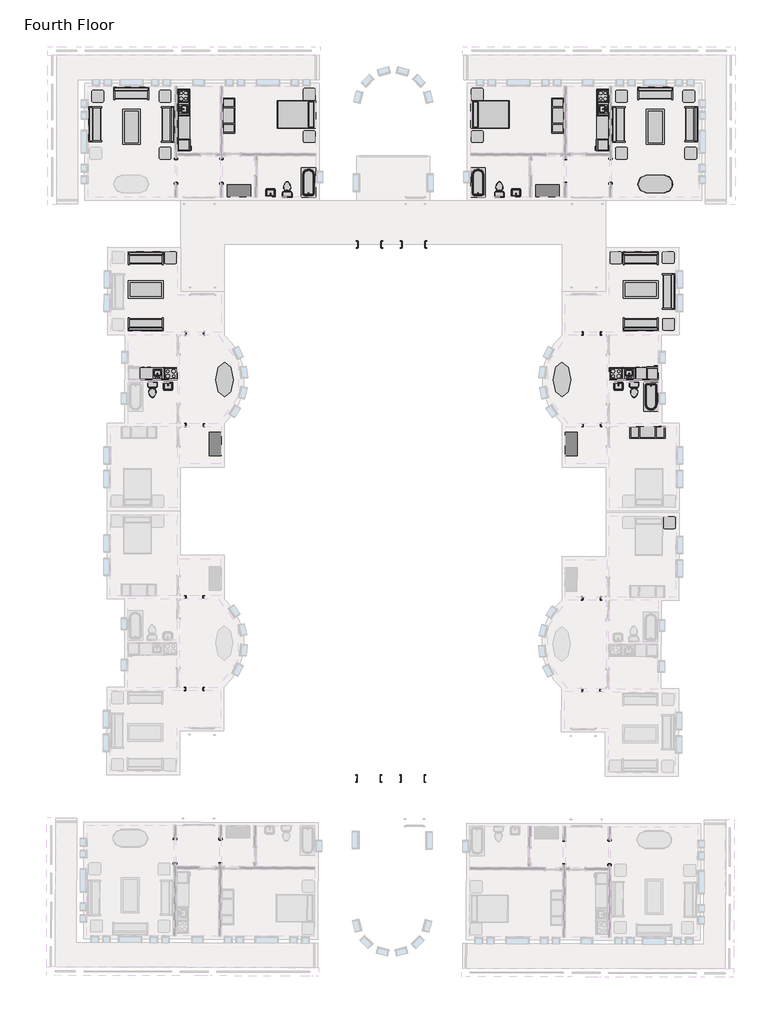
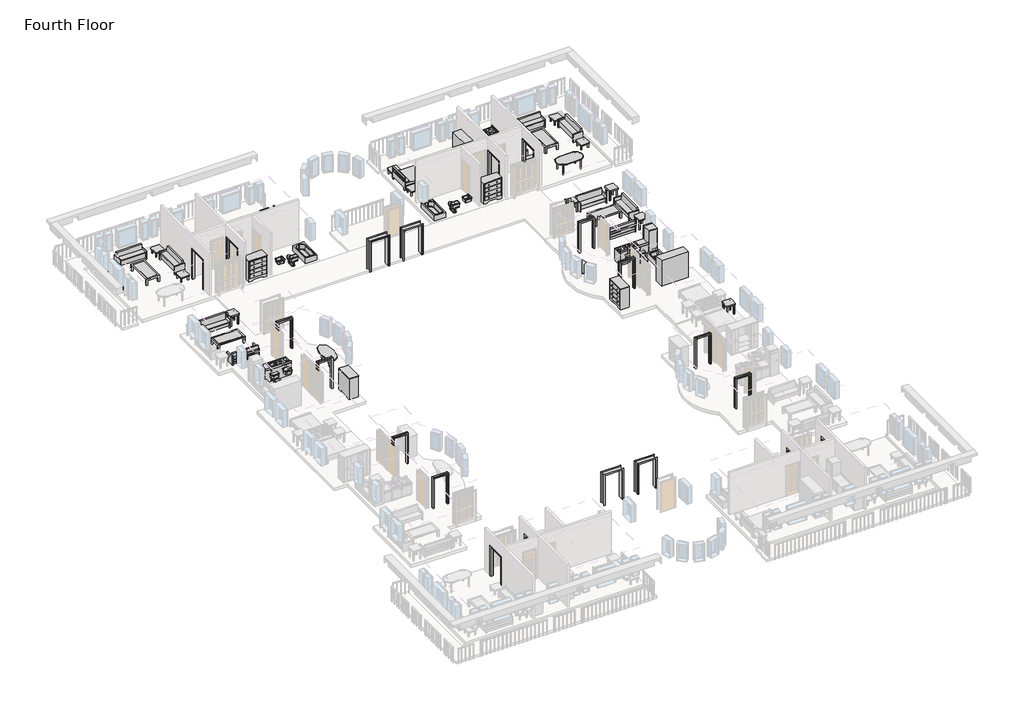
# One storey, part 8 of 8: 47 furniture elements, 35 proxies, 15 flow terminals.
"""IFC4 building model written with IfcOpenShell, lengths in millimetres."""

from ifc_helpers import new_model, si_unit, origin, place, context, project, spatial, transform, mapped, element, save
from components import m_cook_top_4_unit2_0615_x_500mm_249f3515, m_cook_top_4_unit2_0615_x_500mm_c91639ce, m_dishwasher_610_x_610_x_875mm_54ecfc4c, m_dishwasher_610_x_610_x_875mm_75336c20, m_kitchenette_medium_1372mm_e05c6bec, m_kitchenette_medium_1372mm_39f1532f, m_passage_opening_cased_0915_x_2134mm_b7ef4dee, m_passage_opening_cased_0915_x_2134mm_5e741ba8, m_passage_opening_cased_1220_x_2134mm_87a8d9c2, m_passage_opening_cased_1220_x_2134mm_f04423fa, m_passage_opening_cased_1220_x_2134mm_7296280d, m_passage_opening_cased_1220_x_2134mm_b92f2863, m_refrigerator_600_x_660mm_a466bf94, m_refrigerator_600_x_660mm_0a899b9c, m_sink_kitchen_island_450_x_450mm_f969cf2d, m_sink_kitchen_island_450_x_450mm_f6c2c534, m_sink_vanity_square_500_x_440mm_1e229b74, m_sink_vanity_square_500_x_440mm_f3cfe680, m_toilet_domestic_3d_m_toilet_domestic_3d_5cb52bd4, m_toilet_domestic_3d_m_toilet_domestic_3d_183bbd19, m_toilet_domestic_3d_m_toilet_domestic_3d_43425dfb, m_toilet_domestic_3d_m_toilet_domestic_3d_5530cc89, m_tub_rectangular_3d_m_tub_rectangular_3d_3a981ad5, m_tub_rectangular_3d_m_tub_rectangular_3d_c2020133, m_bed_shaker_1422_x_1981mm_double_096e7f55, m_bed_shaker_1422_x_1981mm_double_097b173b, m_counter_top_w_sink_hole_600mm_depth_1fb56bb9, m_counter_top_w_sink_hole_600mm_depth_08c4f679, m_counter_top_w_sink_hole_600mm_depth_60928b92, m_counter_top_w_sink_hole_600mm_depth_7e9aa94d, m_dresser_1220_x_1525_x_0610mm_18e1f140, m_dresser_1220_x_1525_x_0610mm_4e5de046, m_entertainment_center_1830_x_1830_x_0610mm_f77a9b93, m_entertainment_center_1830_x_1830_x_0610mm_4f6058a0, m_sofa_1830mm_58d08fc1, m_sofa_1830mm_3da2e71b, m_sofa1_1830mm_f9e8a66b, m_sofa1_1830mm_493d6964, m_table_coffee_0915_x_1830_x_0457mm_134cd960, m_table_coffee_0915_x_1830_x_0457mm_595c1ebd, m_table_dining_oval_0915_x_1830mm_a7cfbe21, m_table_ellipse_1800_x_900mm_fd46d5a5, m_table_ellipse_1800_x_900mm_f7269293, m_table_end_cb6ea12e, m_table_end_aa2764bc, m_table_end_0610_x_0160mm_e0e5b28f, m_table_end_0610_x_0160mm_ccef8dc9

model = new_model("IFC4")

# Units and contexts
model_context = context("Model", 3, world=origin())
ifc_project = project(units=[si_unit("LENGTHUNIT", "METRE", prefix="MILLI")], contexts=[model_context])

# Site, building, storey
site = spatial("IfcSite", under=ifc_project)
building = spatial("IfcBuilding", under=site)
storey = spatial("IfcBuildingStorey", under=building, Name="Fourth Floor", Elevation=9144.0)

# Proxies
placement = place(None, origin())
m_cook_top_4_unit2_0615_x_500mm_shape = m_cook_top_4_unit2_0615_x_500mm_249f3515(model_context)
element("IfcBuildingElementProxy", 1, Name="M_Cook Top-4 Unit2 : 0615 x 500mm", ObjectType="M_Cook Top-4 Unit2 : 0615 x 500mm", at=placement, inside=storey, context=model_context, shape_type="MappedRepresentation", body=[
    mapped(m_cook_top_4_unit2_0615_x_500mm_shape, transform((-8054.9916203, 1914.054661, 9144.0), x_axis=(0.0, -1.0, 0.0), y_axis=(1.0, 0.0, 0.0), z_axis=(0.0, 0.0, 1.0))),
])
element("IfcBuildingElementProxy", 2, Name="M_Cook Top-4 Unit2 : 0615 x 500mm", ObjectType="M_Cook Top-4 Unit2 : 0615 x 500mm", at=placement, inside=storey, context=model_context, shape_type="MappedRepresentation", body=[
    mapped(m_cook_top_4_unit2_0615_x_500mm_shape, transform((-30530.5448332, -12522.1734226, 9144.0), x_axis=(-0.9999989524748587, 0.0014474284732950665, 0.0), y_axis=(-0.0014474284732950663, -0.9999989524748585, 0.0), z_axis=(0.0, 0.0, 0.9999999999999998))),
])
m_cook_top_4_unit2_0615_x_500mm_2_shape = m_cook_top_4_unit2_0615_x_500mm_c91639ce(model_context)
element("IfcBuildingElementProxy", 3, Name="M_Cook Top-4 Unit2 : 0615 x 500mm", ObjectType="M_Cook Top-4 Unit2 : 0615 x 500mm", at=placement, inside=storey, context=model_context, shape_type="MappedRepresentation", body=[
    mapped(m_cook_top_4_unit2_0615_x_500mm_2_shape, transform((-7383.6384074, -12522.1734226, 9144.0), x_axis=(0.9999989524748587, 0.0014474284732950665, 0.0), y_axis=(-0.0014474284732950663, 0.9999989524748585, 0.0), z_axis=(0.0, 0.0, 0.9999999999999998))),
])
element("IfcBuildingElementProxy", 4, Name="M_Cook Top-4 Unit2 : 0615 x 500mm", ObjectType="M_Cook Top-4 Unit2 : 0615 x 500mm", at=placement, inside=storey, context=model_context, shape_type="MappedRepresentation", body=[
    mapped(m_cook_top_4_unit2_0615_x_500mm_2_shape, transform((-29859.1916203, 1914.054661, 9144.0), x_axis=(0.0, -1.0, 0.0), y_axis=(1.0, 0.0, 0.0), z_axis=(0.0, 0.0, 1.0))),
])
m_dishwasher_610_x_610_x_875mm_shape = m_dishwasher_610_x_610_x_875mm_54ecfc4c(model_context)
element("IfcBuildingElementProxy", 5, Name="M_Dishwasher : 610 x 610 x 875mm", ObjectType="M_Dishwasher : 610 x 610 x 875mm", at=placement, inside=storey, context=model_context, shape_type="MappedRepresentation", body=[
    mapped(m_dishwasher_610_x_610_x_875mm_shape, transform((-8321.6411851, 353.5721295, 9144.0), x_axis=(0.0, -1.0, 0.0), y_axis=(1.0, 0.0, 0.0), z_axis=(0.0, 0.0, 1.0))),
])
element("IfcBuildingElementProxy", 6, Name="M_Dishwasher : 610 x 610 x 875mm", ObjectType="M_Dishwasher : 610 x 610 x 875mm", at=placement, inside=storey, context=model_context, shape_type="MappedRepresentation", body=[
    mapped(m_dishwasher_610_x_610_x_875mm_shape, transform((-31445.6404496, -12254.1990417, 9144.0), x_axis=(-0.9999989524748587, 0.0014474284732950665, 0.0), y_axis=(-0.0014474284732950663, -0.9999989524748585, 0.0), z_axis=(0.0, 0.0, 0.9999999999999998))),
])
m_dishwasher_610_x_610_x_875mm_2_shape = m_dishwasher_610_x_610_x_875mm_75336c20(model_context)
element("IfcBuildingElementProxy", 7, Name="M_Dishwasher : 610 x 610 x 875mm", ObjectType="M_Dishwasher : 610 x 610 x 875mm", at=placement, inside=storey, context=model_context, shape_type="MappedRepresentation", body=[
    mapped(m_dishwasher_610_x_610_x_875mm_2_shape, transform((-6468.5427911, -12254.1990417, 9144.0), x_axis=(0.9999989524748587, 0.0014474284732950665, 0.0), y_axis=(-0.0014474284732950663, 0.9999989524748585, 0.0), z_axis=(0.0, 0.0, 0.9999999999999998))),
])
element("IfcBuildingElementProxy", 8, Name="M_Dishwasher : 610 x 610 x 875mm", ObjectType="M_Dishwasher : 610 x 610 x 875mm", at=placement, inside=storey, context=model_context, shape_type="MappedRepresentation", body=[
    mapped(m_dishwasher_610_x_610_x_875mm_2_shape, transform((-29592.5420555, 353.5721295, 9144.0), x_axis=(0.0, -1.0, 0.0), y_axis=(1.0, 0.0, 0.0), z_axis=(0.0, 0.0, 1.0))),
])
m_kitchenette_medium_1372mm_shape = m_kitchenette_medium_1372mm_e05c6bec(model_context)
element("IfcBuildingElementProxy", 9, Name="M_Kitchenette - Medium : 1372mm", ObjectType="M_Kitchenette - Medium : 1372mm", at=placement, inside=storey, context=model_context, shape_type="MappedRepresentation", body=[
    mapped(m_kitchenette_medium_1372mm_shape, transform((-7749.9916203, 1589.7923659, 9144.0), x_axis=(0.0, -1.0, 0.0), y_axis=(1.0, 0.0, 0.0), z_axis=(0.0, 0.0, 1.0))),
])
m_kitchenette_medium_1372mm_2_shape = m_kitchenette_medium_1372mm_39f1532f(model_context)
element("IfcBuildingElementProxy", 10, Name="M_Kitchenette - Medium : 1372mm", ObjectType="M_Kitchenette - Medium : 1372mm", at=placement, inside=storey, context=model_context, shape_type="MappedRepresentation", body=[
    mapped(m_kitchenette_medium_1372mm_2_shape, transform((-30164.1916203, 1589.7923659, 9144.0), x_axis=(0.0, -1.0, 0.0), y_axis=(1.0, 0.0, 0.0), z_axis=(0.0, 0.0, 1.0))),
])
element("IfcBuildingElementProxy", 11, Name="M_Kitchenette - Medium1 : 1372mm 2", ObjectType="M_Kitchenette - Medium1 : 1372mm 2", at=placement, inside=storey, context=model_context, shape_type="MappedRepresentation", body=[
    mapped(m_kitchenette_medium_1372mm_shape, transform((-30855.2482543, -12826.7037567, 9144.0), x_axis=(-0.9999989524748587, 0.0014474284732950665, 0.0), y_axis=(-0.0014474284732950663, -0.9999989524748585, 0.0), z_axis=(0.0, 0.0, 0.9999999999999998))),
])
element("IfcBuildingElementProxy", 12, Name="M_Kitchenette - Medium1 : 1372mm 2", ObjectType="M_Kitchenette - Medium1 : 1372mm 2", at=placement, inside=storey, context=model_context, shape_type="MappedRepresentation", body=[
    mapped(m_kitchenette_medium_1372mm_2_shape, transform((-7058.9349863, -12826.7037567, 9144.0), x_axis=(0.9999989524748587, 0.0014474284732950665, 0.0), y_axis=(-0.0014474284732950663, 0.9999989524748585, 0.0), z_axis=(0.0, 0.0, 0.9999999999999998))),
])
m_passage_opening_cased_0915_x_2134mm_shape = m_passage_opening_cased_0915_x_2134mm_b7ef4dee(model_context)
element("IfcBuildingElementProxy", 13, Name="M_Passage Opening-Cased : 0915 x 2134mm", ObjectType="M_Passage Opening-Cased : 0915 x 2134mm", at=placement, inside=storey, context=model_context, shape_type="MappedRepresentation", body=[
    mapped(m_passage_opening_cased_0915_x_2134mm_shape, transform((-29263.1209408, -10426.1057324, 9144.0), x_axis=(0.9999989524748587, -0.0014474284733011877, 0.0), y_axis=(0.0014474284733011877, 0.9999989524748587, 0.0), z_axis=(0.0, 0.0, 1.0))),
])
element("IfcBuildingElementProxy", 14, Name="M_Passage Opening-Cased : 0915 x 2134mm", ObjectType="M_Passage Opening-Cased : 0915 x 2134mm", at=placement, inside=storey, context=model_context, shape_type="MappedRepresentation", body=[
    mapped(m_passage_opening_cased_0915_x_2134mm_shape, transform((-29270.0280695, -15198.1007336, 9144.0), x_axis=(0.9999989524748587, -0.0014474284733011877, 0.0), y_axis=(0.0014474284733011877, 0.9999989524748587, 0.0), z_axis=(0.0, 0.0, 1.0))),
])
element("IfcBuildingElementProxy", 15, Name="M_Passage Opening-Cased : 0915 x 2134mm", ObjectType="M_Passage Opening-Cased : 0915 x 2134mm", at=placement, inside=storey, context=model_context, shape_type="MappedRepresentation", body=[
    mapped(m_passage_opening_cased_0915_x_2134mm_shape, transform((-8677.908724, -28973.7552644, 9144.0), x_axis=(-0.9999905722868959, 0.004342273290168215, 0.0), y_axis=(-0.004342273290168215, -0.9999905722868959, 0.0), z_axis=(0.0, 0.0, 1.0))),
])
element("IfcBuildingElementProxy", 16, Name="M_Passage Opening-Cased : 0915 x 2134mm", ObjectType="M_Passage Opening-Cased : 0915 x 2134mm", at=placement, inside=storey, context=model_context, shape_type="MappedRepresentation", body=[
    mapped(m_passage_opening_cased_0915_x_2134mm_shape, transform((-8657.1873959, -24201.8002534, 9144.0), x_axis=(-0.9999905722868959, 0.004342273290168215, 0.0), y_axis=(-0.004342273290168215, -0.9999905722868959, 0.0), z_axis=(0.0, 0.0, 1.0))),
])
m_passage_opening_cased_0915_x_2134mm_2_shape = m_passage_opening_cased_0915_x_2134mm_5e741ba8(model_context)
element("IfcBuildingElementProxy", 17, Name="M_Passage Opening-Cased : 0915 x 2134mm", ObjectType="M_Passage Opening-Cased : 0915 x 2134mm", at=placement, inside=storey, context=model_context, shape_type="MappedRepresentation", body=[
    mapped(m_passage_opening_cased_0915_x_2134mm_2_shape, transform((-8651.0622999, -10426.1057324, 9144.0), x_axis=(-0.9999989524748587, -0.0014474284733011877, 0.0), y_axis=(0.0014474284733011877, -0.9999989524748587, 0.0), z_axis=(0.0, 0.0, 1.0))),
])
element("IfcBuildingElementProxy", 18, Name="M_Passage Opening-Cased : 0915 x 2134mm", ObjectType="M_Passage Opening-Cased : 0915 x 2134mm", at=placement, inside=storey, context=model_context, shape_type="MappedRepresentation", body=[
    mapped(m_passage_opening_cased_0915_x_2134mm_2_shape, transform((-8644.1551712, -15198.1007336, 9144.0), x_axis=(-0.9999989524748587, -0.0014474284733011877, 0.0), y_axis=(0.0014474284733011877, -0.9999989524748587, 0.0), z_axis=(0.0, 0.0, 1.0))),
])
element("IfcBuildingElementProxy", 19, Name="M_Passage Opening-Cased : 0915 x 2134mm", ObjectType="M_Passage Opening-Cased : 0915 x 2134mm", at=placement, inside=storey, context=model_context, shape_type="MappedRepresentation", body=[
    mapped(m_passage_opening_cased_0915_x_2134mm_2_shape, transform((-29289.8809984, -28914.0863657, 9144.0), x_axis=(0.9999989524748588, -0.0014474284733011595, 0.0), y_axis=(0.0014474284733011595, 0.9999989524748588, 0.0), z_axis=(0.0, 0.0, 1.0))),
])
element("IfcBuildingElementProxy", 20, Name="M_Passage Opening-Cased : 0915 x 2134mm", ObjectType="M_Passage Opening-Cased : 0915 x 2134mm", at=placement, inside=storey, context=model_context, shape_type="MappedRepresentation", body=[
    mapped(m_passage_opening_cased_0915_x_2134mm_2_shape, transform((-29282.9738697, -24142.0913645, 9144.0), x_axis=(0.9999989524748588, -0.0014474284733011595, 0.0), y_axis=(0.0014474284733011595, 0.9999989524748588, 0.0), z_axis=(0.0, 0.0, 1.0))),
])
m_passage_opening_cased_1220_x_2134mm_shape = m_passage_opening_cased_1220_x_2134mm_87a8d9c2(model_context)
element("IfcBuildingElementProxy", 21, Name="M_Passage Opening-Cased : 1220 x 2134mm", ObjectType="M_Passage Opening-Cased : 1220 x 2134mm", at=placement, inside=storey, context=model_context, shape_type="MappedRepresentation", body=[
    mapped(m_passage_opening_cased_1220_x_2134mm_shape, transform((-7665.3416203, -1982.6925047, 9144.0), x_axis=(0.0, 1.0, 0.0), y_axis=(-1.0, 0.0, 0.0), z_axis=(0.0, 0.0, 1.0))),
])
element("IfcBuildingElementProxy", 22, Name="M_Passage Opening-Cased : 1220 x 2134mm", ObjectType="M_Passage Opening-Cased : 1220 x 2134mm", at=placement, inside=storey, context=model_context, shape_type="MappedRepresentation", body=[
    mapped(m_passage_opening_cased_1220_x_2134mm_shape, transform((-10019.0916203, -1999.0698181, 9144.0), x_axis=(0.0, -1.0, 0.0), y_axis=(1.0, 0.0, 0.0), z_axis=(0.0, 0.0, 1.0))),
])
element("IfcBuildingElementProxy", 23, Name="M_Passage Opening-Cased : 1220 x 2134mm", ObjectType="M_Passage Opening-Cased : 1220 x 2134mm", at=placement, inside=storey, context=model_context, shape_type="MappedRepresentation", body=[
    mapped(m_passage_opening_cased_1220_x_2134mm_shape, transform((-30300.0399955, -37354.6106974, 9144.0), x_axis=(-0.0028948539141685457, -0.9999958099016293, 0.0), y_axis=(0.9999958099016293, -0.0028948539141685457, 0.0), z_axis=(0.0, 0.0, 1.0))),
])
element("IfcBuildingElementProxy", 24, Name="M_Passage Opening-Cased : 1220 x 2134mm", ObjectType="M_Passage Opening-Cased : 1220 x 2134mm", at=placement, inside=storey, context=model_context, shape_type="MappedRepresentation", body=[
    mapped(m_passage_opening_cased_1220_x_2134mm_shape, transform((-27946.252448, -37345.047215, 9144.0), x_axis=(0.0028948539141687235, 0.9999958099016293, 0.0), y_axis=(-0.9999958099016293, 0.0028948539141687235, 0.0), z_axis=(0.0, 0.0, 1.0))),
])
m_passage_opening_cased_1220_x_2134mm_2_shape = m_passage_opening_cased_1220_x_2134mm_f04423fa(model_context)
element("IfcBuildingElementProxy", 25, Name="M_Passage Opening-Cased : 1220 x 2134mm", ObjectType="M_Passage Opening-Cased : 1220 x 2134mm", at=placement, inside=storey, context=model_context, shape_type="MappedRepresentation", body=[
    mapped(m_passage_opening_cased_1220_x_2134mm_2_shape, transform((-17916.280277, -5800.8811614, 9144.0), x_axis=(-1.0, 0.0, 0.0), y_axis=(0.0, -1.0, 0.0), z_axis=(0.0, 0.0, 1.0))),
])
element("IfcBuildingElementProxy", 26, Name="M_Passage Opening-Cased : 1220 x 2134mm", ObjectType="M_Passage Opening-Cased : 1220 x 2134mm", at=placement, inside=storey, context=model_context, shape_type="MappedRepresentation", body=[
    mapped(m_passage_opening_cased_1220_x_2134mm_2_shape, transform((-20185.9029636, -5800.8811614, 9144.0), x_axis=(1.0, 0.0, 0.0), y_axis=(0.0, 1.0, 0.0), z_axis=(0.0, 0.0, 1.0))),
])
m_passage_opening_cased_1220_x_2134mm_3_shape = m_passage_opening_cased_1220_x_2134mm_7296280d(model_context)
element("IfcBuildingElementProxy", 27, Name="M_Passage Opening-Cased : 1220 x 2134mm", ObjectType="M_Passage Opening-Cased : 1220 x 2134mm", at=placement, inside=storey, context=model_context, shape_type="MappedRepresentation", body=[
    mapped(m_passage_opening_cased_1220_x_2134mm_3_shape, transform((-30248.8416203, -1982.6925047, 9144.0), x_axis=(0.0, 1.0, 0.0), y_axis=(-1.0, 0.0, 0.0), z_axis=(0.0, 0.0, 1.0))),
])
element("IfcBuildingElementProxy", 28, Name="M_Passage Opening-Cased : 1220 x 2134mm", ObjectType="M_Passage Opening-Cased : 1220 x 2134mm", at=placement, inside=storey, context=model_context, shape_type="MappedRepresentation", body=[
    mapped(m_passage_opening_cased_1220_x_2134mm_3_shape, transform((-27895.0916203, -1999.0698181, 9144.0), x_axis=(0.0, -1.0, 0.0), y_axis=(1.0, 0.0, 0.0), z_axis=(0.0, 0.0, 1.0))),
])
element("IfcBuildingElementProxy", 29, Name="M_Passage Opening-Cased : 1220 x 2134mm", ObjectType="M_Passage Opening-Cased : 1220 x 2134mm", at=placement, inside=storey, context=model_context, shape_type="MappedRepresentation", body=[
    mapped(m_passage_opening_cased_1220_x_2134mm_3_shape, transform((-7716.6346226, -37419.9866307, 9144.0), x_axis=(-0.0028948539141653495, -0.9999958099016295, 0.0), y_axis=(0.9999958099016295, -0.0028948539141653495, 0.0), z_axis=(0.0, 0.0, 1.0))),
])
element("IfcBuildingElementProxy", 30, Name="M_Passage Opening-Cased : 1220 x 2134mm", ObjectType="M_Passage Opening-Cased : 1220 x 2134mm", at=placement, inside=storey, context=model_context, shape_type="MappedRepresentation", body=[
    mapped(m_passage_opening_cased_1220_x_2134mm_3_shape, transform((-10070.3273502, -37396.7956235, 9144.0), x_axis=(0.0028948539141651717, 0.9999958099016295, 0.0), y_axis=(-0.9999958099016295, 0.0028948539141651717, 0.0), z_axis=(0.0, 0.0, 1.0))),
])
m_passage_opening_cased_1220_x_2134mm_4_shape = m_passage_opening_cased_1220_x_2134mm_b92f2863(model_context)
element("IfcBuildingElementProxy", 31, Name="M_Passage Opening-Cased : 1220 x 2134mm", ObjectType="M_Passage Opening-Cased : 1220 x 2134mm", at=placement, inside=storey, context=model_context, shape_type="MappedRepresentation", body=[
    mapped(m_passage_opening_cased_1220_x_2134mm_4_shape, transform((-17956.4772285, -33572.1390027, 9144.0), x_axis=(-0.9999958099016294, 0.0028948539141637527, 0.0), y_axis=(-0.0028948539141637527, -0.9999958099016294, 0.0), z_axis=(0.0, 0.0, 1.0))),
])
element("IfcBuildingElementProxy", 32, Name="M_Passage Opening-Cased : 1220 x 2134mm", ObjectType="M_Passage Opening-Cased : 1220 x 2134mm", at=placement, inside=storey, context=model_context, shape_type="MappedRepresentation", body=[
    mapped(m_passage_opening_cased_1220_x_2134mm_4_shape, transform((-20226.0904051, -33565.5687766, 9144.0), x_axis=(0.9999958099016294, -0.0028948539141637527, 0.0), y_axis=(0.0028948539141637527, 0.9999958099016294, 0.0), z_axis=(0.0, 0.0, 1.0))),
])
m_refrigerator_600_x_660mm_shape = m_refrigerator_600_x_660mm_a466bf94(model_context)
element("IfcBuildingElementProxy", 33, Name="M_Refrigerator : 600 x 660mm", ObjectType="M_Refrigerator : 600 x 660mm", at=placement, inside=storey, context=model_context, shape_type="MappedRepresentation", body=[
    mapped(m_refrigerator_600_x_660mm_shape, transform((-8046.2067105, -687.7464817, 9144.0), x_axis=(0.0, -1.0, 0.0), y_axis=(1.0, 0.0, 0.0), z_axis=(0.0, 0.0, 1.0))),
])
m_refrigerator_600_x_660mm_2_shape = m_refrigerator_600_x_660mm_0a899b9c(model_context)
element("IfcBuildingElementProxy", 34, Name="M_Refrigerator : 600 x 660mm", ObjectType="M_Refrigerator : 600 x 660mm", at=placement, inside=storey, context=model_context, shape_type="MappedRepresentation", body=[
    mapped(m_refrigerator_600_x_660mm_2_shape, transform((-5426.8265991, -12528.1259936, 9144.0), x_axis=(0.9999989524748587, 0.0014474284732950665, 0.0), y_axis=(-0.0014474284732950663, 0.9999989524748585, 0.0), z_axis=(0.0, 0.0, 0.9999999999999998))),
])
element("IfcBuildingElementProxy", 35, Name="M_Refrigerator : 600 x 660mm", ObjectType="M_Refrigerator : 600 x 660mm", at=placement, inside=storey, context=model_context, shape_type="MappedRepresentation", body=[
    mapped(m_refrigerator_600_x_660mm_2_shape, transform((-29867.9765301, -687.7464817, 9144.0), x_axis=(0.0, -1.0, 0.0), y_axis=(1.0, 0.0, 0.0), z_axis=(0.0, 0.0, 1.0))),
])

# Flow terminals
m_sink_kitchen_island_450_x_450mm_shape = m_sink_kitchen_island_450_x_450mm_f969cf2d(model_context)
element("IfcFlowTerminal", 36, ObjectType="M_Sink Kitchen-Island : 450 x 450mm", at=placement, inside=storey, context=model_context, shape_type="MappedRepresentation", body=[
    mapped(m_sink_kitchen_island_450_x_450mm_shape, transform((-8057.3370214, 1243.7439015, 9144.0), x_axis=(0.0, -1.0, 0.0), y_axis=(1.0, 0.0, 0.0), z_axis=(0.0, 0.0, 1.0))),
])
element("IfcFlowTerminal", 37, ObjectType="M_Sink Kitchen-Island : 450 x 450mm", at=placement, inside=storey, context=model_context, shape_type="MappedRepresentation", body=[
    mapped(m_sink_kitchen_island_450_x_450mm_shape, transform((-31200.8514957, -12518.8577971, 9144.0), x_axis=(-0.9999989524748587, 0.0014474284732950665, 0.0), y_axis=(-0.0014474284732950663, -0.9999989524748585, 0.0), z_axis=(0.0, 0.0, 0.9999999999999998))),
])
m_sink_kitchen_island_450_x_450mm_2_shape = m_sink_kitchen_island_450_x_450mm_f6c2c534(model_context)
element("IfcFlowTerminal", 38, ObjectType="M_Sink Kitchen-Island : 450 x 450mm", at=placement, inside=storey, context=model_context, shape_type="MappedRepresentation", body=[
    mapped(m_sink_kitchen_island_450_x_450mm_2_shape, transform((-6713.331745, -12518.8577971, 9144.0), x_axis=(0.9999989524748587, 0.0014474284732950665, 0.0), y_axis=(-0.0014474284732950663, 0.9999989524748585, 0.0), z_axis=(0.0, 0.0, 0.9999999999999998))),
])
element("IfcFlowTerminal", 39, ObjectType="M_Sink Kitchen-Island : 450 x 450mm", at=placement, inside=storey, context=model_context, shape_type="MappedRepresentation", body=[
    mapped(m_sink_kitchen_island_450_x_450mm_2_shape, transform((-29856.8462192, 1243.7439015, 9144.0), x_axis=(0.0, -1.0, 0.0), y_axis=(1.0, 0.0, 0.0), z_axis=(0.0, 0.0, 1.0))),
])
m_sink_vanity_square_500_x_440mm_shape = m_sink_vanity_square_500_x_440mm_1e229b74(model_context)
element("IfcFlowTerminal", 40, ObjectType="M_Sink Vanity-Square : 500 x 440mm", at=placement, inside=storey, context=model_context, shape_type="MappedRepresentation", body=[
    mapped(m_sink_vanity_square_500_x_440mm_shape, transform((-12563.5523798, -3158.1107603, 9144.0), x_axis=(-1.0, 0.0, 0.0), y_axis=(0.0, -1.0, 0.0), z_axis=(0.0, 0.0, 1.0))),
])
element("IfcFlowTerminal", 41, ObjectType="M_Sink Vanity-Square : 500 x 440mm", at=placement, inside=storey, context=model_context, shape_type="MappedRepresentation", body=[
    mapped(m_sink_vanity_square_500_x_440mm_shape, transform((-30677.3455366, -13134.5069817, 9144.0), x_axis=(0.9999989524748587, -0.001447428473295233, 0.0), y_axis=(0.0014474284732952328, 0.9999989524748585, 0.0), z_axis=(0.0, 0.0, 0.9999999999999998))),
])
m_sink_vanity_square_500_x_440mm_2_shape = m_sink_vanity_square_500_x_440mm_f3cfe680(model_context)
element("IfcFlowTerminal", 42, ObjectType="M_Sink Vanity-Square : 500 x 440mm", at=placement, inside=storey, context=model_context, shape_type="MappedRepresentation", body=[
    mapped(m_sink_vanity_square_500_x_440mm_2_shape, transform((-7236.8377041, -13134.5069817, 9144.0), x_axis=(-0.9999989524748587, -0.001447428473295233, 0.0), y_axis=(0.0014474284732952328, -0.9999989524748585, 0.0), z_axis=(0.0, 0.0, 0.9999999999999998))),
])
element("IfcFlowTerminal", 43, ObjectType="M_Sink Vanity-Square : 500 x 440mm", at=placement, inside=storey, context=model_context, shape_type="MappedRepresentation", body=[
    mapped(m_sink_vanity_square_500_x_440mm_2_shape, transform((-25350.6308609, -3158.1107603, 9144.0), x_axis=(1.0, 0.0, 0.0), y_axis=(0.0, 1.0, 0.0), z_axis=(0.0, 0.0, 1.0))),
])
m_toilet_domestic_3d_m_toilet_domestic_3d_shape = m_toilet_domestic_3d_m_toilet_domestic_3d_5cb52bd4(model_context)
m_toilet_domestic_3d_m_toilet_domestic_3d_2_shape = m_toilet_domestic_3d_m_toilet_domestic_3d_183bbd19(model_context)
element("IfcFlowTerminal", 44, ObjectType="M_Toilet-Domestic-3D : M_Toilet-Domestic-3D", at=placement, inside=storey, context=model_context, shape_type="MappedRepresentation", body=[
    mapped(m_toilet_domestic_3d_m_toilet_domestic_3d_shape, transform((-13440.7376477, -2845.185134, 9144.0), x_axis=(-1.0, 0.0, 0.0), y_axis=(0.0, -1.0, 0.0), z_axis=(0.0, 0.0, 1.0))),
    mapped(m_toilet_domestic_3d_m_toilet_domestic_3d_2_shape, transform((-13440.7376477, -2845.185134, 9144.0), x_axis=(-1.0, 0.0, 0.0), y_axis=(0.0, -1.0, 0.0), z_axis=(0.0, 0.0, 1.0))),
])
m_toilet_domestic_3d_m_toilet_domestic_3d_3_shape = m_toilet_domestic_3d_m_toilet_domestic_3d_43425dfb(model_context)
m_toilet_domestic_3d_m_toilet_domestic_3d_4_shape = m_toilet_domestic_3d_m_toilet_domestic_3d_5530cc89(model_context)
element("IfcFlowTerminal", 45, ObjectType="M_Toilet-Domestic-3D : M_Toilet-Domestic-3D", at=placement, inside=storey, context=model_context, shape_type="MappedRepresentation", body=[
    mapped(m_toilet_domestic_3d_m_toilet_domestic_3d_3_shape, transform((-24473.445593, -2845.185134, 9144.0), x_axis=(1.0, 0.0, 0.0), y_axis=(0.0, 1.0, 0.0), z_axis=(0.0, 0.0, 1.0))),
    mapped(m_toilet_domestic_3d_m_toilet_domestic_3d_4_shape, transform((-24473.445593, -2845.185134, 9144.0), x_axis=(1.0, 0.0, 0.0), y_axis=(0.0, 1.0, 0.0), z_axis=(0.0, 0.0, 1.0))),
])
element("IfcFlowTerminal", 46, ObjectType="M_Toilet-Domestic-3D1 : M_Toilet-Domestic-3D", at=placement, inside=storey, context=model_context, shape_type="MappedRepresentation", body=[
    mapped(m_toilet_domestic_3d_m_toilet_domestic_3d_shape, transform((-31475.0435019, -13456.0033339, 9144.0), x_axis=(0.9999989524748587, -0.001447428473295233, 0.0), y_axis=(0.0014474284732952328, 0.9999989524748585, 0.0), z_axis=(0.0, 0.0, 0.9999999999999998))),
    mapped(m_toilet_domestic_3d_m_toilet_domestic_3d_2_shape, transform((-31475.0435019, -13456.0033339, 9144.0), x_axis=(0.9999989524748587, -0.001447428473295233, 0.0), y_axis=(0.0014474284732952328, 0.9999989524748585, 0.0), z_axis=(0.0, 0.0, 0.9999999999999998))),
])
element("IfcFlowTerminal", 47, ObjectType="M_Toilet-Domestic-3D1 : M_Toilet-Domestic-3D", at=placement, inside=storey, context=model_context, shape_type="MappedRepresentation", body=[
    mapped(m_toilet_domestic_3d_m_toilet_domestic_3d_3_shape, transform((-6439.1397387, -13456.0033339, 9144.0), x_axis=(-0.9999989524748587, -0.001447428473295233, 0.0), y_axis=(0.0014474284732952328, -0.9999989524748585, 0.0), z_axis=(0.0, 0.0, 0.9999999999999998))),
    mapped(m_toilet_domestic_3d_m_toilet_domestic_3d_4_shape, transform((-6439.1397387, -13456.0033339, 9144.0), x_axis=(-0.9999989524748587, -0.001447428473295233, 0.0), y_axis=(0.0014474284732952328, -0.9999989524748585, 0.0), z_axis=(0.0, 0.0, 0.9999999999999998))),
])
m_tub_rectangular_3d_m_tub_rectangular_3d_shape = m_tub_rectangular_3d_m_tub_rectangular_3d_3a981ad5(model_context)
element("IfcFlowTerminal", 48, ObjectType="M_Tub-Rectangular-3D : M_Tub-Rectangular-3D", at=placement, inside=storey, context=model_context, shape_type="MappedRepresentation", body=[
    mapped(m_tub_rectangular_3d_m_tub_rectangular_3d_shape, transform((-15110.3416203, -2229.2781927, 9144.0), x_axis=(0.0, 1.0, 0.0), y_axis=(-1.0, 0.0, 0.0), z_axis=(0.0, 0.0, 1.0))),
])
element("IfcFlowTerminal", 49, ObjectType="M_Tub-Rectangular-3D : M_Tub-Rectangular-3D", at=placement, inside=storey, context=model_context, shape_type="MappedRepresentation", body=[
    mapped(m_tub_rectangular_3d_m_tub_rectangular_3d_shape, transform((-5003.7957874, -14069.8333606, 9144.0), x_axis=(0.0014474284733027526, -0.9999989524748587, 0.0), y_axis=(0.9999989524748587, 0.0014474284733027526, 0.0), z_axis=(0.0, 0.0, 1.0))),
])
m_tub_rectangular_3d_m_tub_rectangular_3d_2_shape = m_tub_rectangular_3d_m_tub_rectangular_3d_c2020133(model_context)
element("IfcFlowTerminal", 50, ObjectType="M_Tub-Rectangular-3D : M_Tub-Rectangular-3D", at=placement, inside=storey, context=model_context, shape_type="MappedRepresentation", body=[
    mapped(m_tub_rectangular_3d_m_tub_rectangular_3d_2_shape, transform((-22803.8416203, -2229.2781927, 9144.0), x_axis=(0.0, 1.0, 0.0), y_axis=(-1.0, 0.0, 0.0), z_axis=(0.0, 0.0, 1.0))),
])

# Furniture
m_bed_shaker_1422_x_1981mm_double_shape = m_bed_shaker_1422_x_1981mm_double_096e7f55(model_context)
element("IfcFurniture", 51, ObjectType="M_Bed-Shaker : 1422 x 1981mm - Double", at=placement, inside=storey, context=model_context, shape_type="MappedRepresentation", body=[
    mapped(m_bed_shaker_1422_x_1981mm_double_shape, transform((-14905.3416203, 963.9688386, 9144.0), x_axis=(0.0, 1.0, 0.0), y_axis=(-1.0, 0.0, 0.0), z_axis=(0.0, 0.0, 1.0))),
])
m_bed_shaker_1422_x_1981mm_double_2_shape = m_bed_shaker_1422_x_1981mm_double_097b173b(model_context)
element("IfcFurniture", 52, ObjectType="M_Bed-Shaker : 1422 x 1981mm - Double", at=placement, inside=storey, context=model_context, shape_type="MappedRepresentation", body=[
    mapped(m_bed_shaker_1422_x_1981mm_double_2_shape, transform((-23008.8416203, 963.9688386, 9144.0), x_axis=(0.0, 1.0, 0.0), y_axis=(-1.0, 0.0, 0.0), z_axis=(0.0, 0.0, 1.0))),
])
m_counter_top_w_sink_hole_600mm_depth_shape = m_counter_top_w_sink_hole_600mm_depth_1fb56bb9(model_context)
element("IfcFurniture", 53, ObjectType="M_Counter Top w Sink Hole : 600mm Depth", at=placement, inside=storey, context=model_context, shape_type="MappedRepresentation", body=[
    mapped(m_counter_top_w_sink_hole_600mm_depth_shape, transform((-7749.9916203, 1056.5923659, 9144.0), x_axis=(0.0, -1.0, 0.0), y_axis=(1.0, 0.0, 0.0), z_axis=(0.0, 0.0, 1.0))),
])
m_counter_top_w_sink_hole_600mm_depth_2_shape = m_counter_top_w_sink_hole_600mm_depth_08c4f679(model_context)
element("IfcFurniture", 54, ObjectType="M_Counter Top w Sink Hole : 600mm Depth", at=placement, inside=storey, context=model_context, shape_type="MappedRepresentation", body=[
    mapped(m_counter_top_w_sink_hole_600mm_depth_2_shape, transform((-31388.4476958, -12825.9319878, 9144.0), x_axis=(-0.9999989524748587, 0.0014474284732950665, 0.0), y_axis=(-0.0014474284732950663, -0.9999989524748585, 0.0), z_axis=(0.0, 0.0, 0.9999999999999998))),
])
m_counter_top_w_sink_hole_600mm_depth_3_shape = m_counter_top_w_sink_hole_600mm_depth_60928b92(model_context)
element("IfcFurniture", 55, ObjectType="M_Counter Top w Sink Hole : 600mm Depth", at=placement, inside=storey, context=model_context, shape_type="MappedRepresentation", body=[
    mapped(m_counter_top_w_sink_hole_600mm_depth_3_shape, transform((-6525.7355449, -12825.9319878, 9144.0), x_axis=(0.9999989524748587, 0.0014474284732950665, 0.0), y_axis=(-0.0014474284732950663, 0.9999989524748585, 0.0), z_axis=(0.0, 0.0, 0.9999999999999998))),
])
m_counter_top_w_sink_hole_600mm_depth_4_shape = m_counter_top_w_sink_hole_600mm_depth_7e9aa94d(model_context)
element("IfcFurniture", 56, ObjectType="M_Counter Top w Sink Hole : 600mm Depth", at=placement, inside=storey, context=model_context, shape_type="MappedRepresentation", body=[
    mapped(m_counter_top_w_sink_hole_600mm_depth_4_shape, transform((-30164.1916203, 1056.5923659, 9144.0), x_axis=(0.0, -1.0, 0.0), y_axis=(1.0, 0.0, 0.0), z_axis=(0.0, 0.0, 1.0))),
])
m_dresser_1220_x_1525_x_0610mm_shape = m_dresser_1220_x_1525_x_0610mm_18e1f140(model_context)
element("IfcFurniture", 57, ObjectType="M_Dresser : 1220 x 1525 x 0610mm", at=placement, inside=storey, context=model_context, shape_type="MappedRepresentation", body=[
    mapped(m_dresser_1220_x_1525_x_0610mm_shape, transform((-10667.6483605, -2647.7182073, 9144.0), x_axis=(1.0, 0.0, 0.0), y_axis=(0.0, 1.0, 0.0), z_axis=(0.0, 0.0, 1.0))),
])
element("IfcFurniture", 58, ObjectType="M_Dresser : 1220 x 1525 x 0610mm", at=placement, inside=storey, context=model_context, shape_type="MappedRepresentation", body=[
    mapped(m_dresser_1220_x_1525_x_0610mm_shape, transform((-28574.6164889, -15914.9147832, 9144.0), x_axis=(0.0014474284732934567, 0.9999989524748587, 0.0), y_axis=(-0.9999989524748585, 0.0014474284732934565, 0.0), z_axis=(0.0, 0.0, 0.9999999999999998))),
])
m_dresser_1220_x_1525_x_0610mm_2_shape = m_dresser_1220_x_1525_x_0610mm_4e5de046(model_context)
element("IfcFurniture", 59, ObjectType="M_Dresser : 1220 x 1525 x 0610mm", at=placement, inside=storey, context=model_context, shape_type="MappedRepresentation", body=[
    mapped(m_dresser_1220_x_1525_x_0610mm_2_shape, transform((-9339.5667518, -15914.9147832, 9144.0), x_axis=(-0.0014474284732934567, 0.9999989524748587, 0.0), y_axis=(-0.9999989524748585, -0.0014474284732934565, 0.0), z_axis=(0.0, 0.0, 0.9999999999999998))),
])
element("IfcFurniture", 60, ObjectType="M_Dresser : 1220 x 1525 x 0610mm", at=placement, inside=storey, context=model_context, shape_type="MappedRepresentation", body=[
    mapped(m_dresser_1220_x_1525_x_0610mm_2_shape, transform((-27246.5348802, -2647.7182073, 9144.0), x_axis=(-1.0, 0.0, 0.0), y_axis=(0.0, -1.0, 0.0), z_axis=(0.0, 0.0, 1.0))),
])
m_entertainment_center_1830_x_1830_x_0610mm_shape = m_entertainment_center_1830_x_1830_x_0610mm_f77a9b93(model_context)
element("IfcFurniture", 61, ObjectType="M_Entertainment center : 1830 x 1830 x 0610mm", at=placement, inside=storey, context=model_context, shape_type="MappedRepresentation", body=[
    mapped(m_entertainment_center_1830_x_1830_x_0610mm_shape, transform((-10818.2416203, 891.1188386, 9144.0), x_axis=(0.0, 1.0, 0.0), y_axis=(-1.0, 0.0, 0.0), z_axis=(0.0, 0.0, 1.0))),
])
m_entertainment_center_1830_x_1830_x_0610mm_2_shape = m_entertainment_center_1830_x_1830_x_0610mm_4f6058a0(model_context)
element("IfcFurniture", 62, ObjectType="M_Entertainment center : 1830 x 1830 x 0610mm", at=placement, inside=storey, context=model_context, shape_type="MappedRepresentation", body=[
    mapped(m_entertainment_center_1830_x_1830_x_0610mm_2_shape, transform((-5741.0312966, -15980.2994888, 9144.0), x_axis=(0.9999989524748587, 0.0014474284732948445, 0.0), y_axis=(-0.0014474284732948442, 0.9999989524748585, 0.0), z_axis=(0.0, 0.0, 0.9999999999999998))),
])
element("IfcFurniture", 63, ObjectType="M_Entertainment center : 1830 x 1830 x 0610mm", at=placement, inside=storey, context=model_context, shape_type="MappedRepresentation", body=[
    mapped(m_entertainment_center_1830_x_1830_x_0610mm_2_shape, transform((-27095.9416203, 891.1188386, 9144.0), x_axis=(0.0, 1.0, 0.0), y_axis=(-1.0, 0.0, 0.0), z_axis=(0.0, 0.0, 1.0))),
])
m_sofa_1830mm_shape = m_sofa_1830mm_58d08fc1(model_context)
element("IfcFurniture", 64, ObjectType="M_Sofa : 1830mm", at=placement, inside=storey, context=model_context, shape_type="MappedRepresentation", body=[
    mapped(m_sofa_1830mm_shape, transform((-5413.7121121, 1899.9647403, 9144.0), x_axis=(1.0, 0.0, 0.0), y_axis=(0.0, 1.0, 0.0), z_axis=(0.0, 0.0, 1.0))),
])
element("IfcFurniture", 65, ObjectType="M_Sofa : 1830mm", at=placement, inside=storey, context=model_context, shape_type="MappedRepresentation", body=[
    mapped(m_sofa_1830mm_shape, transform((-3617.1736471, 517.2688343, 9144.0), x_axis=(0.0, -1.0, 0.0), y_axis=(1.0, 0.0, 0.0), z_axis=(0.0, 0.0, 1.0))),
])
element("IfcFurniture", 66, ObjectType="M_Sofa : 1830mm", at=placement, inside=storey, context=model_context, shape_type="MappedRepresentation", body=[
    mapped(m_sofa_1830mm_shape, transform((-7088.437522, 355.7483468, 9144.0), x_axis=(0.0, 1.0, 0.0), y_axis=(-1.0, 0.0, 0.0), z_axis=(0.0, 0.0, 1.0))),
])
m_sofa_1830mm_2_shape = m_sofa_1830mm_3da2e71b(model_context)
element("IfcFurniture", 67, ObjectType="M_Sofa : 1830mm", at=placement, inside=storey, context=model_context, shape_type="MappedRepresentation", body=[
    mapped(m_sofa_1830mm_2_shape, transform((-32500.4711285, 1899.9647403, 9144.0), x_axis=(-1.0, 0.0, 0.0), y_axis=(0.0, -1.0, 0.0), z_axis=(0.0, 0.0, 1.0))),
])
element("IfcFurniture", 68, ObjectType="M_Sofa : 1830mm", at=placement, inside=storey, context=model_context, shape_type="MappedRepresentation", body=[
    mapped(m_sofa_1830mm_2_shape, transform((-34297.0095936, 517.2688343, 9144.0), x_axis=(0.0, -1.0, 0.0), y_axis=(1.0, 0.0, 0.0), z_axis=(0.0, 0.0, 1.0))),
])
element("IfcFurniture", 69, ObjectType="M_Sofa : 1830mm", at=placement, inside=storey, context=model_context, shape_type="MappedRepresentation", body=[
    mapped(m_sofa_1830mm_2_shape, transform((-30825.7457187, 355.7483468, 9144.0), x_axis=(0.0, 1.0, 0.0), y_axis=(-1.0, 0.0, 0.0), z_axis=(0.0, 0.0, 1.0))),
])
m_sofa1_1830mm_shape = m_sofa1_1830mm_f9e8a66b(model_context)
element("IfcFurniture", 70, ObjectType="M_Sofa1 : 1830mm", at=placement, inside=storey, context=model_context, shape_type="MappedRepresentation", body=[
    mapped(m_sofa1_1830mm_shape, transform((-31753.247914, -9808.5967065, 9144.0), x_axis=(-0.9999989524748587, 0.0014474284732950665, 0.0), y_axis=(-0.0014474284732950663, -0.9999989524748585, 0.0), z_axis=(0.0, 0.0, 0.9999999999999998))),
])
element("IfcFurniture", 71, ObjectType="M_Sofa1 : 1830mm", at=placement, inside=storey, context=model_context, shape_type="MappedRepresentation", body=[
    mapped(m_sofa1_1830mm_shape, transform((-31889.4482513, -6671.4544767, 9144.0), x_axis=(0.9999989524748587, -0.001447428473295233, 0.0), y_axis=(0.0014474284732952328, 0.9999989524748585, 0.0), z_axis=(0.0, 0.0, 0.9999999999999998))),
])
m_sofa1_1830mm_2_shape = m_sofa1_1830mm_493d6964(model_context)
element("IfcFurniture", 72, ObjectType="M_Sofa1 : 1830mm", at=placement, inside=storey, context=model_context, shape_type="MappedRepresentation", body=[
    mapped(m_sofa1_1830mm_2_shape, transform((-4803.866496, -8323.9054813, 9144.0), x_axis=(-0.0014474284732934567, 0.9999989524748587, 0.0), y_axis=(-0.9999989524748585, -0.0014474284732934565, 0.0), z_axis=(0.0, 0.0, 0.9999999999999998))),
])
element("IfcFurniture", 73, ObjectType="M_Sofa1 : 1830mm", at=placement, inside=storey, context=model_context, shape_type="MappedRepresentation", body=[
    mapped(m_sofa1_1830mm_2_shape, transform((-6160.9353266, -9808.5967065, 9144.0), x_axis=(0.9999989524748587, 0.0014474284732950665, 0.0), y_axis=(-0.0014474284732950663, 0.9999989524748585, 0.0), z_axis=(0.0, 0.0, 0.9999999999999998))),
])
element("IfcFurniture", 74, ObjectType="M_Sofa1 : 1830mm", at=placement, inside=storey, context=model_context, shape_type="MappedRepresentation", body=[
    mapped(m_sofa1_1830mm_2_shape, transform((-6024.7349893, -6671.4544767, 9144.0), x_axis=(-0.9999989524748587, -0.001447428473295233, 0.0), y_axis=(0.0014474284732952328, -0.9999989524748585, 0.0), z_axis=(0.0, 0.0, 0.9999999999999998))),
])
m_table_coffee_0915_x_1830_x_0457mm_shape = m_table_coffee_0915_x_1830_x_0457mm_134cd960(model_context)
element("IfcFurniture", 75, ObjectType="M_Table-Coffee : 0915 x 1830 x 0457mm", at=placement, inside=storey, context=model_context, shape_type="MappedRepresentation", body=[
    mapped(m_table_coffee_0915_x_1830_x_0457mm_shape, transform((-5248.1305425, 287.8530719, 9144.0), x_axis=(0.0, 1.0, 0.0), y_axis=(-1.0, 0.0, 0.0), z_axis=(0.0, 0.0, 1.0))),
])
element("IfcFurniture", 76, ObjectType="M_Table-Coffee : 0915 x 1830 x 0457mm", at=placement, inside=storey, context=model_context, shape_type="MappedRepresentation", body=[
    mapped(m_table_coffee_0915_x_1830_x_0457mm_shape, transform((-31802.8209497, -8059.4661414, 9144.0), x_axis=(-0.9999989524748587, 0.0014474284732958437, 0.0), y_axis=(-0.0014474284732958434, -0.9999989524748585, 0.0), z_axis=(0.0, 0.0, 0.9999999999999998))),
])
m_table_coffee_0915_x_1830_x_0457mm_2_shape = m_table_coffee_0915_x_1830_x_0457mm_595c1ebd(model_context)
element("IfcFurniture", 77, ObjectType="M_Table-Coffee : 0915 x 1830 x 0457mm", at=placement, inside=storey, context=model_context, shape_type="MappedRepresentation", body=[
    mapped(m_table_coffee_0915_x_1830_x_0457mm_2_shape, transform((-6111.362291, -8059.4661414, 9144.0), x_axis=(0.9999989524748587, 0.0014474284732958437, 0.0), y_axis=(-0.0014474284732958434, 0.9999989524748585, 0.0), z_axis=(0.0, 0.0, 0.9999999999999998))),
])
element("IfcFurniture", 78, ObjectType="M_Table-Coffee : 0915 x 1830 x 0457mm", at=placement, inside=storey, context=model_context, shape_type="MappedRepresentation", body=[
    mapped(m_table_coffee_0915_x_1830_x_0457mm_2_shape, transform((-32666.0526981, 287.8530719, 9144.0), x_axis=(0.0, 1.0, 0.0), y_axis=(-1.0, 0.0, 0.0), z_axis=(0.0, 0.0, 1.0))),
])
m_table_dining_oval_0915_x_1830mm_shape = m_table_dining_oval_0915_x_1830mm_a7cfbe21(model_context)
element("IfcFurniture", 79, ObjectType="M_Table-Dining Oval : 0915 x 1830mm", at=placement, inside=storey, context=model_context, shape_type="MappedRepresentation", body=[
    mapped(m_table_dining_oval_0915_x_1830mm_shape, transform((-4941.5219482, -2305.2828007, 9144.0), x_axis=(1.0, 0.0, 0.0), y_axis=(0.0, 1.0, 0.0), z_axis=(0.0, 0.0, 1.0))),
])
m_table_ellipse_1800_x_900mm_shape = m_table_ellipse_1800_x_900mm_fd46d5a5(model_context)
element("IfcFurniture", 80, ObjectType="M_Table-Ellipse : 1800 x 900mm", at=placement, inside=storey, context=model_context, shape_type="MappedRepresentation", body=[
    mapped(m_table_ellipse_1800_x_900mm_shape, transform((-27726.9892362, -12831.2316926, 9144.0), x_axis=(0.0014474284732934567, 0.9999989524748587, 0.0), y_axis=(-0.9999989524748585, 0.0014474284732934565, 0.0), z_axis=(0.0, 0.0, 0.9999999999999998))),
])
m_table_ellipse_1800_x_900mm_2_shape = m_table_ellipse_1800_x_900mm_f7269293(model_context)
element("IfcFurniture", 81, ObjectType="M_Table-Ellipse : 1800 x 900mm", at=placement, inside=storey, context=model_context, shape_type="MappedRepresentation", body=[
    mapped(m_table_ellipse_1800_x_900mm_2_shape, transform((-10187.1940045, -12831.2316926, 9144.0), x_axis=(-0.0014474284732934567, 0.9999989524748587, 0.0), y_axis=(-0.9999989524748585, -0.0014474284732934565, 0.0), z_axis=(0.0, 0.0, 0.9999999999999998))),
])
m_table_end_shape = m_table_end_cb6ea12e(model_context)
element("IfcFurniture", 82, ObjectType="M_Table-End : 0610 x 0160mm altered height", at=placement, inside=storey, context=model_context, shape_type="MappedRepresentation", body=[
    mapped(m_table_end_shape, transform((-7407.0752506, 1748.7188386, 9144.0), x_axis=(1.0, 0.0, 0.0), y_axis=(0.0, 1.0, 0.0), z_axis=(0.0, 0.0, 1.0))),
])
element("IfcFurniture", 83, ObjectType="M_Table-End : 0610 x 0160mm altered height", at=placement, inside=storey, context=model_context, shape_type="MappedRepresentation", body=[
    mapped(m_table_end_shape, transform((-3907.0752506, 1748.7188386, 9144.0), x_axis=(1.0, 0.0, 0.0), y_axis=(0.0, 1.0, 0.0), z_axis=(0.0, 0.0, 1.0))),
])
element("IfcFurniture", 84, ObjectType="M_Table-End : 0610 x 0160mm altered height", at=placement, inside=storey, context=model_context, shape_type="MappedRepresentation", body=[
    mapped(m_table_end_shape, transform((-3807.0752506, -1222.7811614, 9144.0), x_axis=(1.0, 0.0, 0.0), y_axis=(0.0, 1.0, 0.0), z_axis=(0.0, 0.0, 1.0))),
])
element("IfcFurniture", 85, ObjectType="M_Table-End : 0610 x 0160mm altered height", at=placement, inside=storey, context=model_context, shape_type="MappedRepresentation", body=[
    mapped(m_table_end_shape, transform((-7407.0752506, -1222.7811614, 9144.0), x_axis=(1.0, 0.0, 0.0), y_axis=(0.0, 1.0, 0.0), z_axis=(0.0, 0.0, 1.0))),
])
element("IfcFurniture", 86, ObjectType="M_Table-End : 0610 x 0160mm altered height", at=placement, inside=storey, context=model_context, shape_type="MappedRepresentation", body=[
    mapped(m_table_end_shape, transform((-14899.0752506, -351.2811614, 9144.0), x_axis=(1.0, 0.0, 0.0), y_axis=(0.0, 1.0, 0.0), z_axis=(0.0, 0.0, 1.0))),
])
element("IfcFurniture", 87, ObjectType="M_Table-End : 0610 x 0160mm altered height", at=placement, inside=storey, context=model_context, shape_type="MappedRepresentation", body=[
    mapped(m_table_end_shape, transform((-14899.0752506, 1848.7188386, 9144.0), x_axis=(1.0, 0.0, 0.0), y_axis=(0.0, 1.0, 0.0), z_axis=(0.0, 0.0, 1.0))),
])
m_table_end_2_shape = m_table_end_aa2764bc(model_context)
element("IfcFurniture", 88, ObjectType="M_Table-End : 0610 x 0160mm altered height", at=placement, inside=storey, context=model_context, shape_type="MappedRepresentation", body=[
    mapped(m_table_end_2_shape, transform((-30507.10799, 1748.7188386, 9144.0), x_axis=(-1.0, 0.0, 0.0), y_axis=(0.0, -1.0, 0.0), z_axis=(0.0, 0.0, 1.0))),
])
element("IfcFurniture", 89, ObjectType="M_Table-End : 0610 x 0160mm altered height", at=placement, inside=storey, context=model_context, shape_type="MappedRepresentation", body=[
    mapped(m_table_end_2_shape, transform((-34007.10799, 1748.7188386, 9144.0), x_axis=(-1.0, 0.0, 0.0), y_axis=(0.0, -1.0, 0.0), z_axis=(0.0, 0.0, 1.0))),
])
element("IfcFurniture", 90, ObjectType="M_Table-End : 0610 x 0160mm altered height", at=placement, inside=storey, context=model_context, shape_type="MappedRepresentation", body=[
    mapped(m_table_end_2_shape, transform((-30507.10799, -1222.7811614, 9144.0), x_axis=(-1.0, 0.0, 0.0), y_axis=(0.0, -1.0, 0.0), z_axis=(0.0, 0.0, 1.0))),
])
element("IfcFurniture", 91, ObjectType="M_Table-End : 0610 x 0160mm altered height", at=placement, inside=storey, context=model_context, shape_type="MappedRepresentation", body=[
    mapped(m_table_end_2_shape, transform((-23015.10799, -351.2811614, 9144.0), x_axis=(-1.0, 0.0, 0.0), y_axis=(0.0, -1.0, 0.0), z_axis=(0.0, 0.0, 1.0))),
])
element("IfcFurniture", 92, ObjectType="M_Table-End : 0610 x 0160mm altered height", at=placement, inside=storey, context=model_context, shape_type="MappedRepresentation", body=[
    mapped(m_table_end_2_shape, transform((-23015.10799, 1848.7188386, 9144.0), x_axis=(-1.0, 0.0, 0.0), y_axis=(0.0, -1.0, 0.0), z_axis=(0.0, 0.0, 1.0))),
])
m_table_end_0610_x_0160mm_shape = m_table_end_0610_x_0160mm_e0e5b28f(model_context)
element("IfcFurniture", 93, ObjectType="M_Table-End : 0610 x 0160mm", at=placement, inside=storey, context=model_context, shape_type="MappedRepresentation", body=[
    mapped(m_table_end_0610_x_0160mm_shape, transform((-30381.8640012, -6801.216265, 9144.0), x_axis=(0.0014474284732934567, 0.9999989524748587, 0.0), y_axis=(-0.9999989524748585, 0.0014474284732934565, 0.0), z_axis=(0.0, 0.0, 0.9999999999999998))),
])
element("IfcFurniture", 94, ObjectType="M_Table-End : 0610 x 0160mm", at=placement, inside=storey, context=model_context, shape_type="MappedRepresentation", body=[
    mapped(m_table_end_0610_x_0160mm_shape, transform((-4754.7308298, -19957.2221394, 9144.0), x_axis=(-0.004342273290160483, -0.9999905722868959, 0.0), y_axis=(0.9999905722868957, -0.004342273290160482, 0.0), z_axis=(0.0, 0.0, 0.9999999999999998))),
])
m_table_end_0610_x_0160mm_2_shape = m_table_end_0610_x_0160mm_ccef8dc9(model_context)
element("IfcFurniture", 95, ObjectType="M_Table-End : 0610 x 0160mm", at=placement, inside=storey, context=model_context, shape_type="MappedRepresentation", body=[
    mapped(m_table_end_0610_x_0160mm_2_shape, transform((-4807.2995119, -10267.2756246, 9144.0), x_axis=(-0.0014474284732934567, 0.9999989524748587, 0.0), y_axis=(-0.9999989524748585, -0.0014474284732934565, 0.0), z_axis=(0.0, 0.0, 0.9999999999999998))),
])
element("IfcFurniture", 96, ObjectType="M_Table-End : 0610 x 0160mm", at=placement, inside=storey, context=model_context, shape_type="MappedRepresentation", body=[
    mapped(m_table_end_0610_x_0160mm_2_shape, transform((-4812.3220887, -6797.2792595, 9144.0), x_axis=(-0.0014474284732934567, 0.9999989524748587, 0.0), y_axis=(-0.9999989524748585, -0.0014474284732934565, 0.0), z_axis=(0.0, 0.0, 0.9999999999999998))),
])
element("IfcFurniture", 97, ObjectType="M_Table-End : 0610 x 0160mm", at=placement, inside=storey, context=model_context, shape_type="MappedRepresentation", body=[
    mapped(m_table_end_0610_x_0160mm_2_shape, transform((-7532.3192395, -6801.216265, 9144.0), x_axis=(-0.0014474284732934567, 0.9999989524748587, 0.0), y_axis=(-0.9999989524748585, -0.0014474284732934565, 0.0), z_axis=(0.0, 0.0, 0.9999999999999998))),
])

save(model, "model.ifc")
